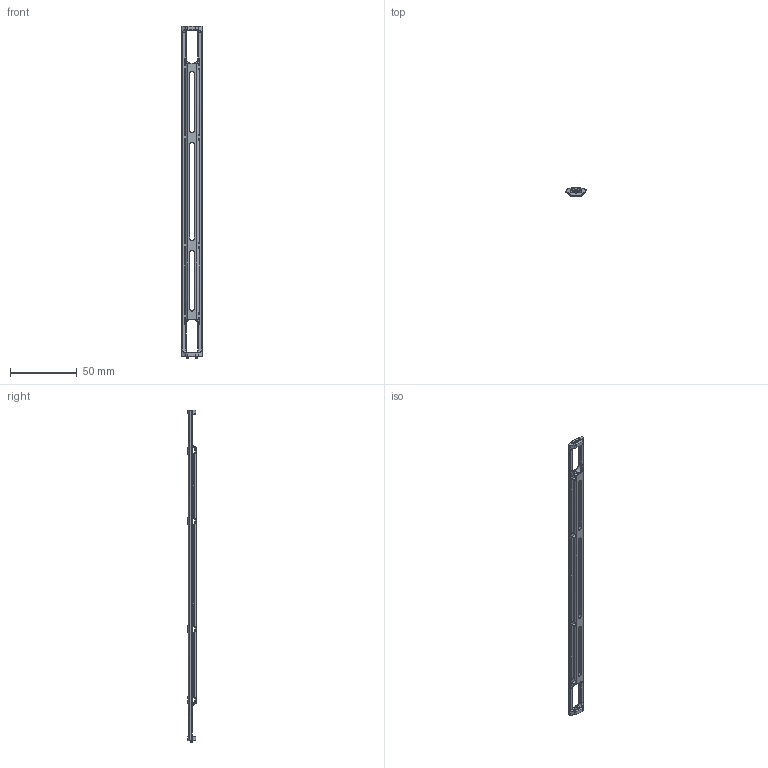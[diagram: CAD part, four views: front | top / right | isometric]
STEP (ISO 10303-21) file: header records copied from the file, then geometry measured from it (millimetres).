
FILE_DESCRIPTION (( 'STEP AP214' ), '1' );
FILE_NAME ('BR-102784-300_Rev_3.step', '2024-12-10T19:11:15', ( '' ), ( '' ), 'SwSTEP 2.0', 'SolidWorks 2024', '' );
FILE_SCHEMA (( 'AUTOMOTIVE_DESIGN' ));
Length unit declared in the file: millimetre
Products named in the file (1): BR-102784-300_Rev_3
Bounding box: 15 x 6.15 x 249 mm (x, y, z)
Volume: 9195.4 mm3; surface area: 10222 mm2
Topology: 1 solids, 1 shells, 358 faces, 875 edges, 491 vertices
Faces by surface type: plane 115, cylinder 86, bspline 81, cone 76
Entity records: 25063 total; most frequent: CARTESIAN_POINT 17651, ORIENTED_EDGE 1702, DIRECTION 1242, EDGE_CURVE 851, VERTEX_POINT 491, AXIS2_PLACEMENT_3D 444, EDGE_LOOP 380, FACE_OUTER_BOUND 358
